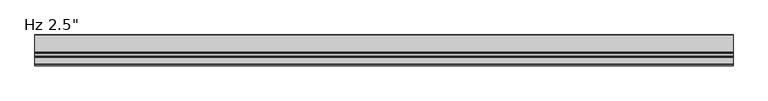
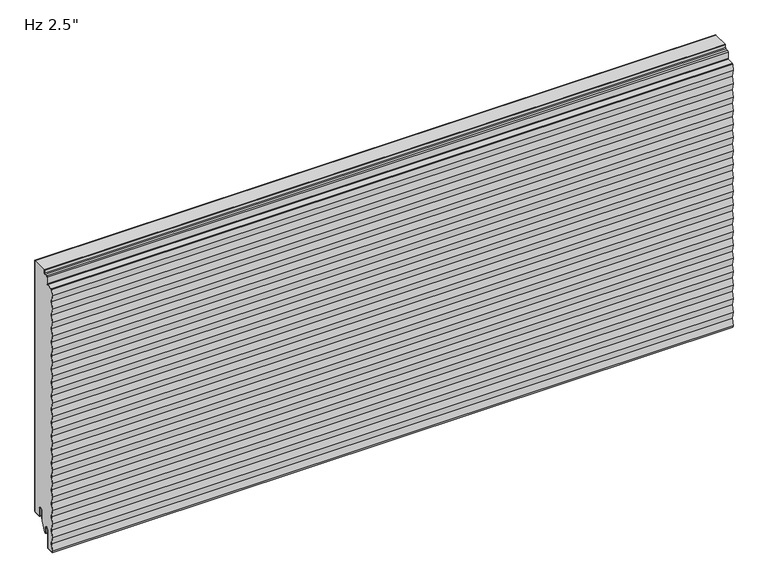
"""IFC4 building model written with IfcOpenShell, lengths in millimetres: plate geometry."""

from ifc_helpers import new_model, si_unit, point, frame, frame_2d, origin, place, context, project, spatial, polyline, circle_curve, trimmed, segment, composite_curve, outline, extrude, source, transform, mapped, element, save


def plate_ac27c202(model_context):
    return source(origin(), model_context, "Body", "SweptSolid", [
        extrude(outline(composite_curve([segment(trimmed(circle_curve(frame_2d((-21.43125, 19.05)), 4.96875), [point((-16.4625, 19.05))], [point((-26.4, 19.05))], True, "CARTESIAN"), True, "CONTINUOUS"), segment(polyline([(-26.4, 19.05), (-26.4, -3.1323422), (-36.5326309, -23.01875), (-38.1, -23.01875), (-38.1, -13.5080174), (-38.89375, -13.5080174), (-38.6875, -11.9205174)]), True, "CONTINUOUS"), segment(trimmed(circle_curve(frame_2d((-43.65625, -11.9205174)), 4.96875), [point((-38.6875, -11.9205174))], [point((-48.625, -11.9205174))], True, "CARTESIAN"), True, "CONTINUOUS"), segment(polyline([(-48.625, -11.9205174), (-48.625, -50.1038221)]), True, "CONTINUOUS"), segment(trimmed(circle_curve(frame_2d((-50.00625, -50.1038221)), 1.38125), [point((-48.625, -50.1038221))], [point((-49.933961, -51.4831791))], False, "CARTESIAN"), True, "CONTINUOUS"), segment(polyline([(-49.933961, -51.4831791), (-63.1062471, -52.1735094), (-63.6378194, -48.8511825), (-61.1994194, -33.6111825), (-63.6378194, -18.3711825), (-61.1994194, -3.1311825), (-63.6378194, 12.1088175), (-61.1994194, 27.3488175), (-63.6378194, 42.5888175), (-61.1994194, 57.8288175), (-63.6378194, 73.0688175), (-61.1994194, 88.3088175), (-63.6378194, 103.5488175), (-61.1994194, 118.7888175), (-63.6378194, 134.0288175), (-61.1994194, 149.2688175), (-63.6378194, 164.5088175), (-61.1994194, 179.7488175), (-63.6378194, 194.9888175), (-61.1994194, 210.2288175), (-63.6378194, 225.4688175), (-61.1994194, 240.7088175), (-63.6378194, 255.9488175), (-61.1994194, 271.1888175), (-63.6378194, 286.4288175), (-61.1994194, 301.6688175), (-63.6378194, 316.9088175), (-61.1994194, 332.1488175), (-63.6378194, 347.3888175), (-61.1994194, 362.6288175), (-63.6378194, 377.8688175), (-61.1994194, 393.1088175), (-63.6378194, 408.3488175), (-61.1994194, 423.5888175), (-63.6378194, 438.8288175), (-61.1994194, 454.0688175), (-63.6378194, 469.3088175), (-61.1994194, 484.5488175), (-63.6378194, 499.7888175), (-61.1994194, 515.0288175), (-63.6054086, 530.06625), (-61.5673048, 542.8043985), (-47.4895807, 543.5421807)]), True, "CONTINUOUS"), segment(trimmed(circle_curve(frame_2d((-47.625, 546.1261347)), 2.5875), [point((-47.4895807, 543.5421807))], [point((-45.0375, 546.1261347))], True, "CARTESIAN"), True, "CONTINUOUS"), segment(polyline([(-45.0375, 546.1261347), (-45.0375, 560.2824411)]), True, "CONTINUOUS"), segment(trimmed(circle_curve(frame_2d((-43.65625, 560.2824411)), 1.38125), [point((-45.0375, 560.2824411))], [point((-43.728539, 561.6617981))], False, "CARTESIAN"), True, "CONTINUOUS"), segment(polyline([(-43.728539, 561.6617981), (-37.9645807, 561.9638744)]), True, "CONTINUOUS"), segment(trimmed(circle_curve(frame_2d((-38.1, 564.5478283)), 2.5875), [point((-37.9645807, 561.9638744))], [point((-35.5125, 564.5478283))], True, "CARTESIAN"), True, "CONTINUOUS"), segment(polyline([(-35.5125, 564.5478283), (-35.5125, 571.2), (-1.0, 571.2), (-1.0, 3.175)]), True, "CONTINUOUS"), segment(trimmed(circle_curve(frame_2d((-2.38125, 3.175)), 1.38125), [point((-1.0, 3.175))], [point((-2.38125, 1.79375))], False, "CARTESIAN"), True, "CONTINUOUS"), segment(polyline([(-2.38125, 1.79375), (-15.08125, 1.79375)]), True, "CONTINUOUS"), segment(trimmed(circle_curve(frame_2d((-15.08125, 3.175)), 1.38125), [point((-15.08125, 1.79375))], [point((-16.4625, 3.175))], False, "CARTESIAN"), True, "CONTINUOUS"), segment(polyline([(-16.4625, 3.175), (-16.4625, 19.05)]), True, "CONTINUOUS")], self_intersect=False)), frame((-730.0, 0.0, 0.0), z_axis=(1.0, 0.0, 0.0), x_axis=(0.0, 1.0, 0.0)), (0.0, 0.0, 1.0), 1460.0),
        extrude(outline(composite_curve([segment(polyline([(-25.4, 0.79375), (-26.4, 0.79375), (-26.4, 19.05)]), True, "CONTINUOUS"), segment(trimmed(circle_curve(frame_2d((-21.43125, 19.05)), 4.96875), [point((-26.4, 19.05))], [point((-16.4625, 19.05))], False, "CARTESIAN"), True, "CONTINUOUS"), segment(polyline([(-16.4625, 19.05), (-16.4625, 3.175)]), True, "CONTINUOUS"), segment(trimmed(circle_curve(frame_2d((-15.08125, 3.175)), 1.38125), [point((-16.4625, 3.175))], [point((-15.08125, 1.79375))], True, "CARTESIAN"), True, "CONTINUOUS"), segment(polyline([(-15.08125, 1.79375), (-2.38125, 1.79375)]), True, "CONTINUOUS"), segment(trimmed(circle_curve(frame_2d((-2.38125, 3.175)), 1.38125), [point((-2.38125, 1.79375))], [point((-1.0, 3.175))], True, "CARTESIAN"), True, "CONTINUOUS"), segment(polyline([(-1.0, 3.175), (-1.0, 571.2), (0.0, 571.2), (0.0, 3.175)]), True, "CONTINUOUS"), segment(trimmed(circle_curve(frame_2d((-2.38125, 3.175)), 2.38125), [point((0.0, 3.175))], [point((-2.38125, 0.79375))], False, "CARTESIAN"), True, "CONTINUOUS"), segment(polyline([(-2.38125, 0.79375), (-15.08125, 0.79375)]), True, "CONTINUOUS"), segment(trimmed(circle_curve(frame_2d((-15.08125, 3.175)), 2.38125), [point((-15.08125, 0.79375))], [point((-17.4625, 3.175))], False, "CARTESIAN"), True, "CONTINUOUS"), segment(polyline([(-17.4625, 3.175), (-17.4625, 19.05)]), True, "CONTINUOUS"), segment(trimmed(circle_curve(frame_2d((-21.43125, 19.05)), 3.96875), [point((-17.4625, 19.05))], [point((-25.4, 19.05))], True, "CARTESIAN"), True, "CONTINUOUS"), segment(polyline([(-25.4, 19.05), (-25.4, 0.79375)]), True, "CONTINUOUS")], self_intersect=False)), frame((-730.0, 0.0, 0.0), z_axis=(1.0, 0.0, 0.0), x_axis=(0.0, 1.0, 0.0)), (0.0, 0.0, 1.0), 1460.0),
        extrude(outline(composite_curve([segment(trimmed(circle_curve(frame_2d((-38.89375, -23.2314549)), 0.79375), [point((-38.1, -23.2314549))], [point((-39.6875, -23.2314549))], False, "CARTESIAN"), True, "CONTINUOUS"), segment(polyline([(-39.6875, -23.2314549), (-39.6875, -11.9205174)]), True, "CONTINUOUS"), segment(trimmed(circle_curve(frame_2d((-43.65625, -11.9205174)), 3.96875), [point((-39.6875, -11.9205174))], [point((-47.625, -11.9205174))], True, "CARTESIAN"), True, "CONTINUOUS"), segment(polyline([(-47.625, -11.9205174), (-47.625, -50.1038221)]), True, "CONTINUOUS"), segment(trimmed(circle_curve(frame_2d((-50.00625, -50.1038221)), 2.38125), [point((-47.625, -50.1038221))], [point((-49.881625, -52.4818086))], False, "CARTESIAN"), True, "CONTINUOUS"), segment(polyline([(-49.881625, -52.4818086), (-64.0543553, -53.22457), (-64.7509395, -48.8709186), (-62.3125395, -33.6309186), (-64.7509395, -18.3909186), (-62.3125395, -3.1509186), (-64.7509395, 12.0890814), (-62.3125395, 27.3290814), (-64.7509395, 42.5690814), (-62.3125395, 57.8090814), (-64.7509395, 73.0490814), (-62.3125395, 88.2890814), (-64.7509395, 103.5290814), (-62.3125395, 118.7690814), (-64.7509395, 134.0090814), (-62.3125395, 149.2490814), (-64.7509395, 164.4890814), (-62.3125395, 179.7290814), (-64.7509395, 194.9690814), (-62.3125395, 210.2090814), (-64.7509395, 225.4490814), (-62.3125395, 240.6890814), (-64.7509395, 255.9290814), (-62.3125395, 271.1690814), (-64.7509395, 286.4090814), (-62.3125395, 301.6490814), (-64.7509395, 316.8890814), (-62.3125395, 332.1290814), (-64.7509395, 347.3690814), (-62.3125395, 362.6090814), (-64.7509395, 377.8490814), (-62.3125395, 393.0890814), (-64.7509395, 408.3290814), (-62.3125395, 423.5690814), (-64.7509395, 438.8090814), (-62.3125395, 454.0490814), (-64.7509395, 469.2890814), (-62.3125395, 484.5290814), (-64.7509395, 499.7690814), (-62.3125395, 515.0090814), (-64.7185287, 530.0465139), (-62.7278537, 542.4882328)]), True, "CONTINUOUS"), segment(trimmed(circle_curve(frame_2d((-61.1602917, 542.2374229)), 1.5875), [point((-62.7278537, 542.4882328))], [point((-61.243375, 543.8227473))], False, "CARTESIAN"), True, "CONTINUOUS"), segment(polyline([(-61.243375, 543.8227473), (-47.5419167, 544.5408103)]), True, "CONTINUOUS"), segment(trimmed(circle_curve(frame_2d((-47.625, 546.1261347)), 1.5875), [point((-47.5419167, 544.5408103))], [point((-46.0375, 546.1261347))], True, "CARTESIAN"), True, "CONTINUOUS"), segment(polyline([(-46.0375, 546.1261347), (-46.0375, 560.2824411)]), True, "CONTINUOUS"), segment(trimmed(circle_curve(frame_2d((-43.65625, 560.2824411)), 2.38125), [point((-46.0375, 560.2824411))], [point((-43.780875, 562.6604276))], False, "CARTESIAN"), True, "CONTINUOUS"), segment(polyline([(-43.780875, 562.6604276), (-38.0169167, 562.9625039)]), True, "CONTINUOUS"), segment(trimmed(circle_curve(frame_2d((-38.1, 564.5478283)), 1.5875), [point((-38.0169167, 562.9625039))], [point((-36.5125, 564.5478283))], True, "CARTESIAN"), True, "CONTINUOUS"), segment(polyline([(-36.5125, 564.5478283), (-36.5125, 571.2), (-35.5125, 571.2), (-35.5125, 564.5478283)]), True, "CONTINUOUS"), segment(trimmed(circle_curve(frame_2d((-38.1, 564.5478283)), 2.5875), [point((-35.5125, 564.5478283))], [point((-37.9645807, 561.9638744))], False, "CARTESIAN"), True, "CONTINUOUS"), segment(polyline([(-37.9645807, 561.9638744), (-43.728539, 561.6617981)]), True, "CONTINUOUS"), segment(trimmed(circle_curve(frame_2d((-43.65625, 560.2824411)), 1.38125), [point((-43.728539, 561.6617981))], [point((-45.0375, 560.2824411))], True, "CARTESIAN"), True, "CONTINUOUS"), segment(polyline([(-45.0375, 560.2824411), (-45.0375, 546.1261347)]), True, "CONTINUOUS"), segment(trimmed(circle_curve(frame_2d((-47.625, 546.1261347)), 2.5875), [point((-45.0375, 546.1261347))], [point((-47.4895807, 543.5421807))], False, "CARTESIAN"), True, "CONTINUOUS"), segment(polyline([(-47.4895807, 543.5421807), (-61.191039, 542.8241177)]), True, "CONTINUOUS"), segment(trimmed(circle_curve(frame_2d((-61.1602917, 542.2374229)), 0.5875), [point((-61.191039, 542.8241177))], [point((-61.740413, 542.3302423))], True, "CARTESIAN"), True, "CONTINUOUS"), segment(polyline([(-61.740413, 542.3302423), (-63.7058096, 530.0465139), (-61.2998204, 515.0090814), (-63.7382204, 499.7690814), (-61.2998204, 484.5290814), (-63.7382204, 469.2890814), (-61.2998204, 454.0490814), (-63.7382204, 438.8090814), (-61.2998204, 423.5690814), (-63.7382204, 408.3290814), (-61.2998204, 393.0890814), (-63.7382204, 377.8490814), (-61.2998204, 362.6090814), (-63.7382204, 347.3690814), (-61.2998204, 332.1290814), (-63.7382204, 316.8890814), (-61.2998204, 301.6490814), (-63.7382204, 286.4090814), (-61.2998204, 271.1690814), (-63.7382204, 255.9290814), (-61.2998204, 240.6890814), (-63.7382204, 225.4490814), (-61.2998204, 210.2090814), (-63.7382204, 194.9690814), (-61.2998204, 179.7290814), (-63.7382204, 164.4890814), (-61.2998204, 149.2490814), (-63.7382204, 134.0090814), (-61.2998204, 118.7690814), (-63.7382204, 103.5290814), (-61.2998204, 88.2890814), (-63.7382204, 73.0490814), (-61.2998204, 57.8090814), (-63.7382204, 42.5690814), (-61.2998204, 27.3290814), (-63.7382204, 12.0890814), (-61.2998204, -3.1509186), (-63.7382204, -18.3909186), (-61.2998204, -33.6309186), (-63.7382204, -48.8709186), (-63.2089447, -52.1788915), (-49.933961, -51.4831791)]), True, "CONTINUOUS"), segment(trimmed(circle_curve(frame_2d((-50.00625, -50.1038221)), 1.38125), [point((-49.933961, -51.4831791))], [point((-48.625, -50.1038221))], True, "CARTESIAN"), True, "CONTINUOUS"), segment(polyline([(-48.625, -50.1038221), (-48.625, -11.9205174)]), True, "CONTINUOUS"), segment(trimmed(circle_curve(frame_2d((-43.65625, -11.9205174)), 4.96875), [point((-48.625, -11.9205174))], [point((-38.6875, -11.9205174))], False, "CARTESIAN"), True, "CONTINUOUS"), segment(polyline([(-38.6875, -11.9205174), (-38.89375, -13.5080174), (-38.1, -13.5080174), (-38.1, -23.2314549)]), True, "CONTINUOUS")], self_intersect=False)), frame((-730.0, 0.0, 0.0), z_axis=(1.0, 0.0, 0.0), x_axis=(0.0, 1.0, 0.0)), (0.0, 0.0, 1.0), 1460.0),
    ])


if __name__ == "__main__":
    model = new_model("IFC4")
    model_context = context("Model", 3, world=origin())
    ifc_project = project(units=[si_unit("LENGTHUNIT", "METRE", prefix="MILLI")], contexts=[model_context])
    site = spatial("IfcSite", under=ifc_project)
    building = spatial("IfcBuilding", under=site)
    placement = place(None, origin())
    plate_shape = plate_ac27c202(model_context)
    element("IfcPlate", 1, ObjectType="KIP-24-DWHR-R19-CP-Hz-S : Hz 2.5\"", at=placement, inside=building, context=model_context, shape_type="MappedRepresentation", body=[
        mapped(plate_shape, transform((0.0, 0.0, 0.0), x_axis=(1.0, 0.0, 0.0), y_axis=(0.0, 1.0, 0.0), z_axis=(0.0, 0.0, 1.0))),
    ])
    save(model, "model.ifc")
